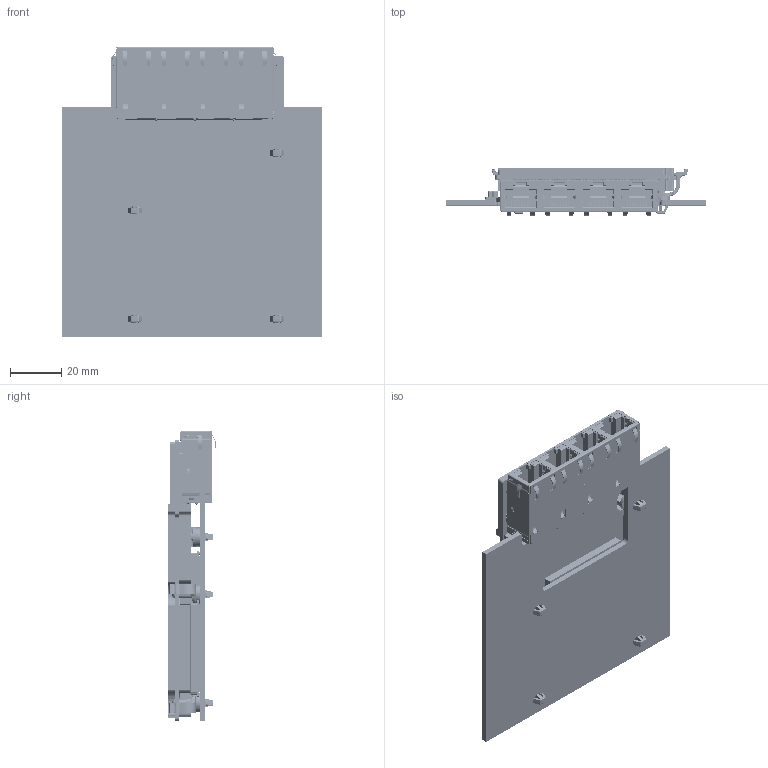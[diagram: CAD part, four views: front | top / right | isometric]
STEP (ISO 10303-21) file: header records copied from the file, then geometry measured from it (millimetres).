
FILE_DESCRIPTION((''),'2;1');
FILE_NAME('OCP-MZ-2_0-ASSY_1X4-RJ45_8MM_ASM','2015-10-23T',('95030616'),(''),'PRO/ENGINEER BY PARAMETRIC TECHNOLOGY CORPORATION, 2013040','PRO/ENGINEER BY PARAMETRIC TECHNOLOGY CORPORATION, 2013040','');
FILE_SCHEMA(('AUTOMOTIVE_DESIGN { 1 0 10303 214 1 1 1 1 }'));
Products named in the file (227): OCP-2_0-BOARD_2; F01-LED-EVERLIGHT; 64POS-PLUG4; BTM-KEEPOUT-2MM; BTM-KEEPOUT-2_9MM; TOP-KEEPOUT-4_5MM; TOP-KEEPOUT-4MM; TOP-KEEPOUT-7_5MM; TOP-KEEPOUT-4MM-2; PORTION_MB_LEOPARD_E1_FILLED; FCI_61082_081402LF_LEOPARD_E1; CN120_GPN2_0-8_SMD_H_F-E1; 64POS-REC1; ASSY_PORTION_MB_LEOPARD_E1_ASM__ASM; F06-MEZZ-LATCH-RIGHT-8MM; F06-MEZZ-LATCH-LEFT-8MM; GD-P110__1X4; R12-LED_LEFT; LED_PIN-72141; GDX_LED_LEFT__W___ASM; R12-LED_RIGHT; LED_PIN-72342; GDX_LED_RIGHT___W___ASM; GD2-C130_________-73345; ____4-107790; ____4-108563; GD2-IM-73409_ASM; GD2-M121______Z-73354_ASM; GD2-C130_________-72686; ____4-107899; ____4-108133; GD2-IM-73335_ASM; GD2-M121______Z-73499_ASM; GD2-C130_________-73330; ____4-107847; ____4-108235; GD2-IM-73366_ASM; GD2-M121______Z-72582_ASM; GD2_1X4_W_LED_ASM; GD2-P120-73004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
Assembly tree (304 placements, depth 6):
  OCP-MZ-2_0-ASSY_1X4-RJ45_8MM_ASM
    OCP-2_0-BOARD_2
    F01-LED-EVERLIGHT  x8
    64POS-PLUG4
    BTM-KEEPOUT-2MM
    BTM-KEEPOUT-2_9MM
    TOP-KEEPOUT-4_5MM
    TOP-KEEPOUT-4MM
    TOP-KEEPOUT-7_5MM
    TOP-KEEPOUT-4MM-2
    ASSY_PORTION_MB_LEOPARD_E1_ASM__ASM
      PORTION_MB_LEOPARD_E1_FILLED
      FCI_61082_081402LF_LEOPARD_E1
      CN120_GPN2_0-8_SMD_H_F-E1
      64POS-REC1
    F06-MEZZ-LATCH-RIGHT-8MM  x3
    F06-MEZZ-LATCH-LEFT-8MM
    GDX_1X4-ASSY_ASM
      GD2_1X4_W_LED_ASM
        GD-P110__1X4
        GDX_LED_LEFT__W___ASM  x4
          R12-LED_LEFT
          LED_PIN-72141
        GDX_LED_RIGHT___W___ASM  x4
          R12-LED_RIGHT
          LED_PIN-72342
        GD2-M121______Z-73354_ASM
          GD2-C130_________-73345
          GD2-IM-73409_ASM
            ____4-107790
            ____4-108563
        GD2-M121______Z-73499_ASM
          GD2-C130_________-72686
          GD2-IM-73335_ASM
            ____4-107899
            ____4-108133
        GD2-M121______Z-72582_ASM
          GD2-C130_________-73330
          GD2-IM-73366_ASM
            ____4-107847
            ____4-108235
      GD2-_____B____-73422_ASM
        GD2-M110_GD2-M110000M-72039_ASM
          GD2-P120-73004
          R26-C130_R26-C130000X____  x14
          GD2-C120__GD2-C120-72947  x4
          GD2-C120__GD2-C120-74197_ASM
            ___-107657
            ___-108524
          GD2-C120__GD2-C120-74569_ASM
            ___-107694
            ___-107715
          GD2-C120__GD2-C120-73180_ASM
            ___-107745
            ___-108592
          GD2-C120__GD2-C120-72984_ASM
            ___-107964
            ___-108032
          GD2-C120__GD2-C120-73458_ASM
            ___-108090
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Bounding box: 101.72 x 18.77 x 113.41 mm (x, y, z)
Volume: 95622.3 mm3; surface area: 102753.1 mm2
Topology: 259 solids, 259 shells, 15712 faces, 42251 edges, 27037 vertices
Faces by surface type: plane 12510, cylinder 2410, bspline 481, sphere 155, cone 110, torus 46
Entity records: 429687 total; most frequent: CARTESIAN_POINT 83230, ORIENTED_EDGE 64268, DIRECTION 59698, EDGE_CURVE 32134, VECTOR 27552, LINE 27552, VERTEX_POINT 20627, AXIS2_PLACEMENT_3D 16073
